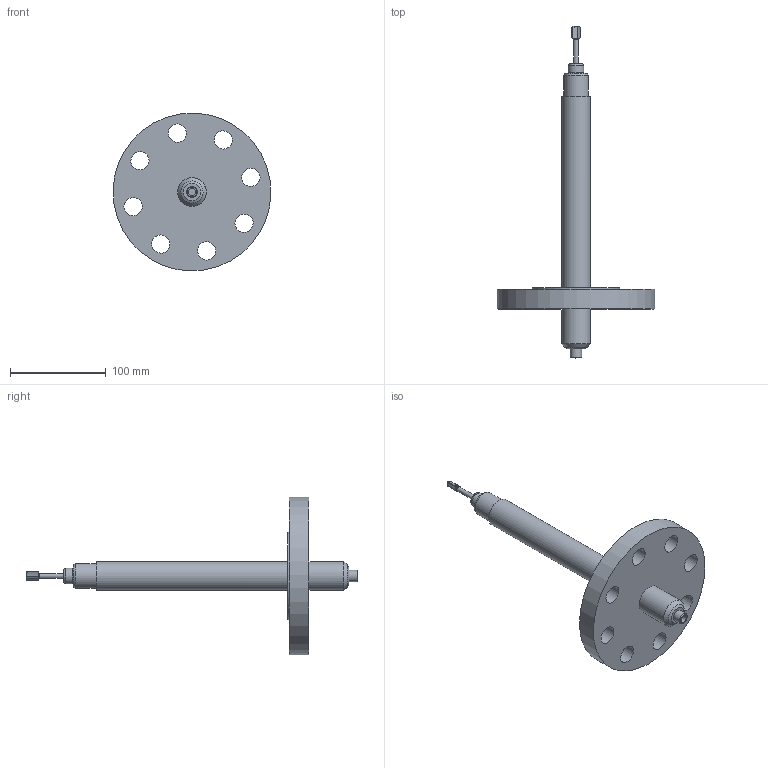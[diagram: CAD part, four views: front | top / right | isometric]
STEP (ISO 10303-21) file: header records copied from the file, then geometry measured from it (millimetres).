
FILE_DESCRIPTION(/* description */ ('Unknown','CAx-IF Rec.Pracs.---Representation and Presentation of Product Manufacturing Information (PMI)---4.0---2014-10-13','CAx-IF Rec.Pracs.---3D Tessellated Geometry---0.4---2014-09-14','2;1'),/* implementation_level */ '2;1');
FILE_NAME(/* name */ 'SRD_A_153_ANSI_2inch_200lb_RF',/* time_stamp */ '2022-02-24T17:04:41+01:00',/* author */ ('Unknown'),/* organization */ ('Unknown'),/* preprocessor_version */ 'ST-DEVELOPER v16.7',/* originating_system */ 'Solid Edge',/* authorisation */ 'Unknown');
FILE_SCHEMA (('AP242_MANAGED_MODEL_BASED_3D_ENGINEERING_MIM_LF { 1 0 10303 442 1 1 4 }'));
Length unit declared in the file: millimetre
Products named in the file (1): 10615_A
Bounding box: 165.08 x 347.17 x 165.08 mm (x, y, z)
Volume: 590342 mm3; surface area: 85467.1 mm2
Topology: 1 solids, 1 shells, 68 faces, 146 edges, 89 vertices
Faces by surface type: cylinder 25, bspline 16, plane 11, cone 9, torus 7
Full cylindrical faces by diameter (mm): 5 x1, 8 x1, 12 x1, 16 x1, 19.05 x8, 26 x1, 30 x2, 91.948 x1, 165.1 x1
Entity records: 2385 total; most frequent: CARTESIAN_POINT 591, DIRECTION 262, ORIENTED_EDGE 228, AXIS2_PLACEMENT_3D 127, EDGE_LOOP 120, FACE_BOUND 120, EDGE_CURVE 114, VERTEX_POINT 84
